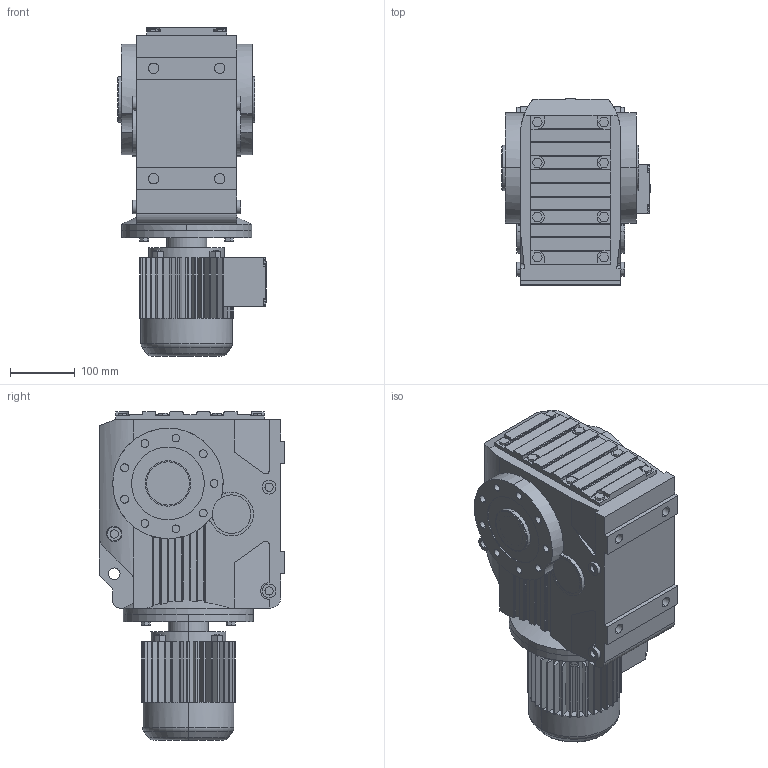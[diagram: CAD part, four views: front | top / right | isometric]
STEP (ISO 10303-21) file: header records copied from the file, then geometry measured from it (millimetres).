
FILE_DESCRIPTION(('Open CASCADE Model'),'2;1');
FILE_NAME('Open CASCADE Shape Model','2021-07-20T14:11:00',('Author'),( 'Open CASCADE'),'Open CASCADE STEP processor 6.3','Open CASCADE 6.3' ,'Unknown');
FILE_SCHEMA(('AUTOMOTIVE_DESIGN_CC2 { 1 2 10303 214 -1 1 5 4 }'));
Length unit declared in the file: millimetre
Products named in the file (4): 1_KA77DT71D-A; KA37‵107_77.step; 萇儂_200-DT71D-193-257-145-122.step; す瑩諾陑粣K_77.step
Assembly tree (3 placements, depth 2):
  1_KA77DT71D-A
    KA37‵107_77.step
    萇儂_200-DT71D-193-257-145-122.step
    す瑩諾陑粣K_77.step
Bounding box: 228.55 x 286 x 505 mm (x, y, z)
Volume: 15966296.2 mm3; surface area: 799971.6 mm2
Topology: 3 solids, 3 shells, 853 faces, 2220 edges, 1446 vertices
Faces by surface type: plane 559, cylinder 284, cone 6, torus 4
Entity records: 63256 total; most frequent: CARTESIAN_POINT 21575, DIRECTION 6998, ORIENTED_EDGE 4440, PCURVE 4440, DEFINITIONAL_REPRESENTATION 4440, LINE 3632, VECTOR 3632, EDGE_CURVE 2220
